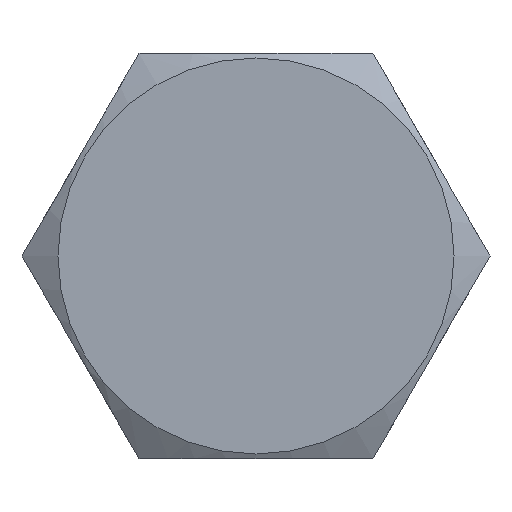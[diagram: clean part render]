
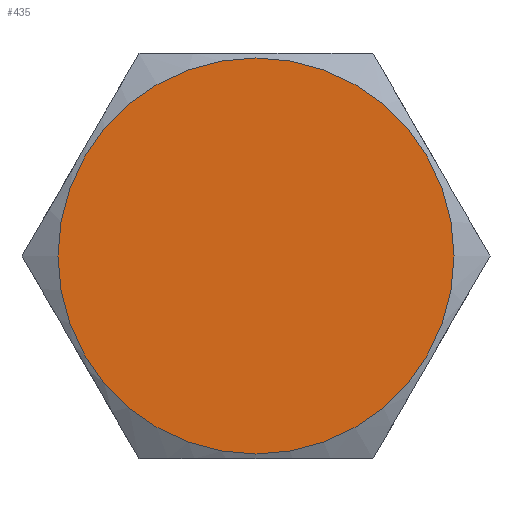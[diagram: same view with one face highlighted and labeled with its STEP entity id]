
A CAD part, front view. The second image highlights one B-rep face of the part: STEP entity #435.
In plain terms, the highlighted planar face has unit normal (0, -1, 0).
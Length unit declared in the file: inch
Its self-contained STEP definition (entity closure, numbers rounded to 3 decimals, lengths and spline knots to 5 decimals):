
#40=PLANE('',#504);
#71=FACE_OUTER_BOUND('',#99,.T.);
#99=EDGE_LOOP('',(#392));
#120=CIRCLE('',#503,0.27456);
#207=VERTEX_POINT('',#823);
#270=EDGE_CURVE('',#207,#207,#120,.T.);
#392=ORIENTED_EDGE('',*,*,#270,.F.);
#435=ADVANCED_FACE('',(#71),#40,.T.);
#503=AXIS2_PLACEMENT_3D('',#824,#625,#626);
#504=AXIS2_PLACEMENT_3D('',#826,#628,#629);
#625=DIRECTION('center_axis',(0.,1.,0.));
#626=DIRECTION('ref_axis',(0.,0.,1.));
#628=DIRECTION('center_axis',(0.,-1.,0.));
#629=DIRECTION('ref_axis',(0.,0.,-1.));
#823=CARTESIAN_POINT('',(0.,0.,-0.27456));
#824=CARTESIAN_POINT('Origin',(0.,0.,0.));
#826=CARTESIAN_POINT('Origin',(0.,0.,0.));
